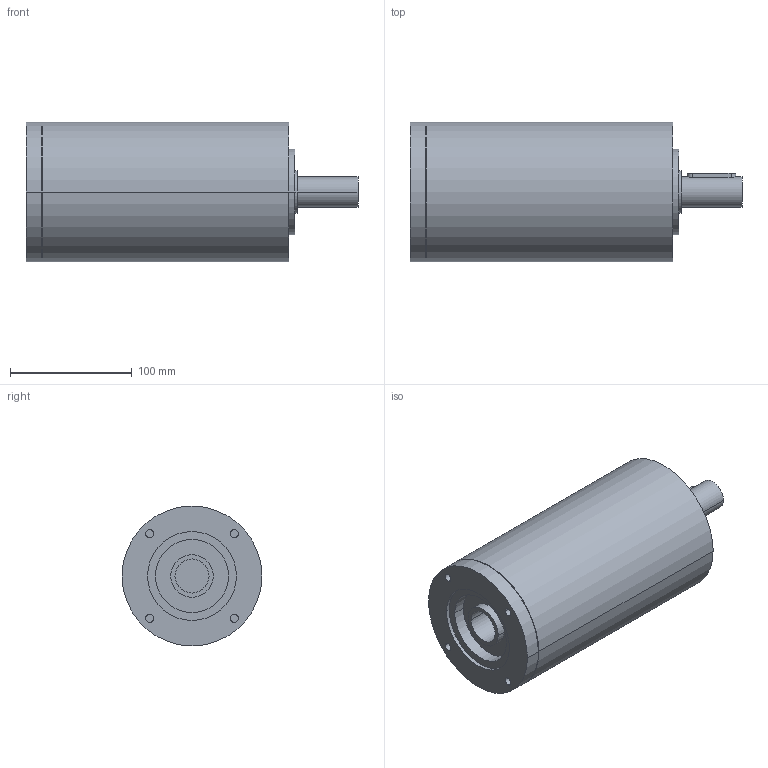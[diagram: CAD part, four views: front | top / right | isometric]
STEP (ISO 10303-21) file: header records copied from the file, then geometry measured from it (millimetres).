
FILE_DESCRIPTION(('CoCreate Modeling STEP Export'),'2;1');
FILE_NAME('GPR125_ig-48-64-80-100-140-196-245-343_25_B14_28_P04.stp','2014-08-26T14:22:45',(''),(''),'CoCreate Modeling STEP processor for AP214 (Solid Model)','CoCreate Modeling 16.00C 25-Feb-2009 (C) Parametric Technology GmbH','');
FILE_SCHEMA(('AUTOMOTIVE_DESIGN { 1 0 10303 214 1 1 1 1 }'));
Length unit declared in the file: millimetre
Products named in the file (2): GPR125_ig-48-64-80-100-140-196-245-343_25_B14_28_P04
Assembly tree (1 placements, depth 2):
  GPR125_ig-48-64-80-100-140-196-245-343_25_B14_28_P04
    GPR125_ig-48-64-80-100-140-196-245-343_25_B14_28_P04
Bounding box: 273 x 115 x 115 mm (x, y, z)
Volume: 2213378.7 mm3; surface area: 117252.8 mm2
Topology: 1 solids, 1 shells, 75 faces, 194 edges, 140 vertices
Faces by surface type: cylinder 46, plane 25, cone 4
Entity records: 1945 total; most frequent: ORIENTED_EDGE 384, CARTESIAN_POINT 361, DIRECTION 250, EDGE_CURVE 192, VERTEX_POINT 140, AXIS2_PLACEMENT_3D 97, EDGE_LOOP 96, FACE_OUTER_BOUND 75
